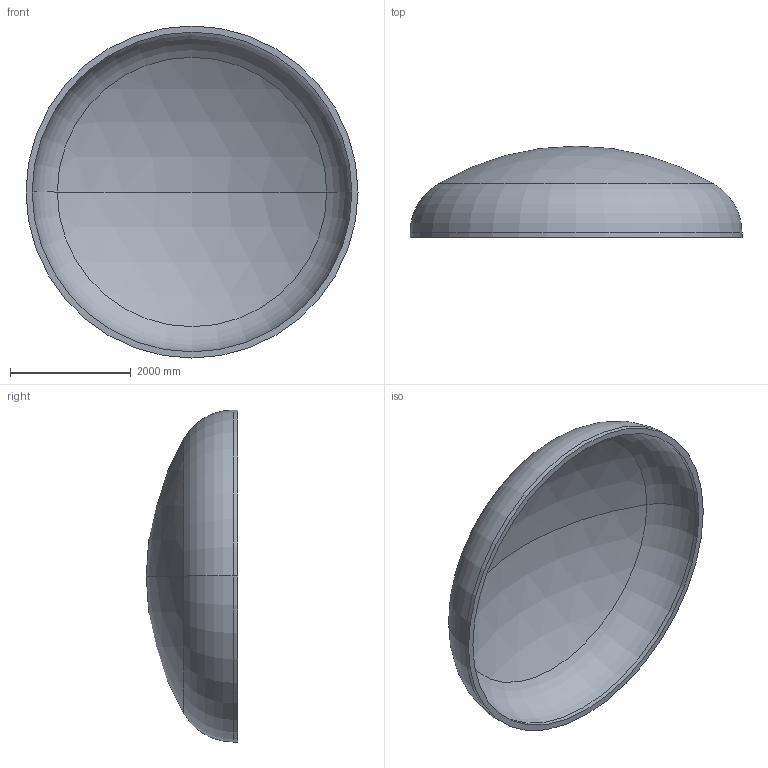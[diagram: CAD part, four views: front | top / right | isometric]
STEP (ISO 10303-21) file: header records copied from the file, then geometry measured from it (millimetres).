
FILE_DESCRIPTION (( 'STEP AP203' ), '1' );
FILE_NAME ('DIN 28013 Korbbogenform_-_Boden DIN 28013 - 5500 x 75 - I - s=102.step', '2016-07-04T10:35:11', ( '' ), ( '' ), 'SwSTEP 2.0', 'SolidWorks 2013', '' );
FILE_SCHEMA (( 'CONFIG_CONTROL_DESIGN' ));
Length unit declared in the file: millimetre
Products named in the file (1): DIN 28013 Korbbogenform_-_Boden DIN 28013 - 5500 x 75 - I - s=102
Bounding box: 5500 x 1513.14 x 5500 mm (x, y, z)
Volume: 3403465805.1 mm3; surface area: 68486137.2 mm2
Topology: 1 solids, 1 shells, 13 faces, 24 edges, 14 vertices
Faces by surface type: torus 4, cylinder 4, sphere 4, plane 1
Entity records: 407 total; most frequent: DIRECTION 72, CARTESIAN_POINT 52, ORIENTED_EDGE 48, AXIS2_PLACEMENT_3D 34, EDGE_CURVE 24, CIRCLE 20, VERTEX_POINT 14, EDGE_LOOP 14
